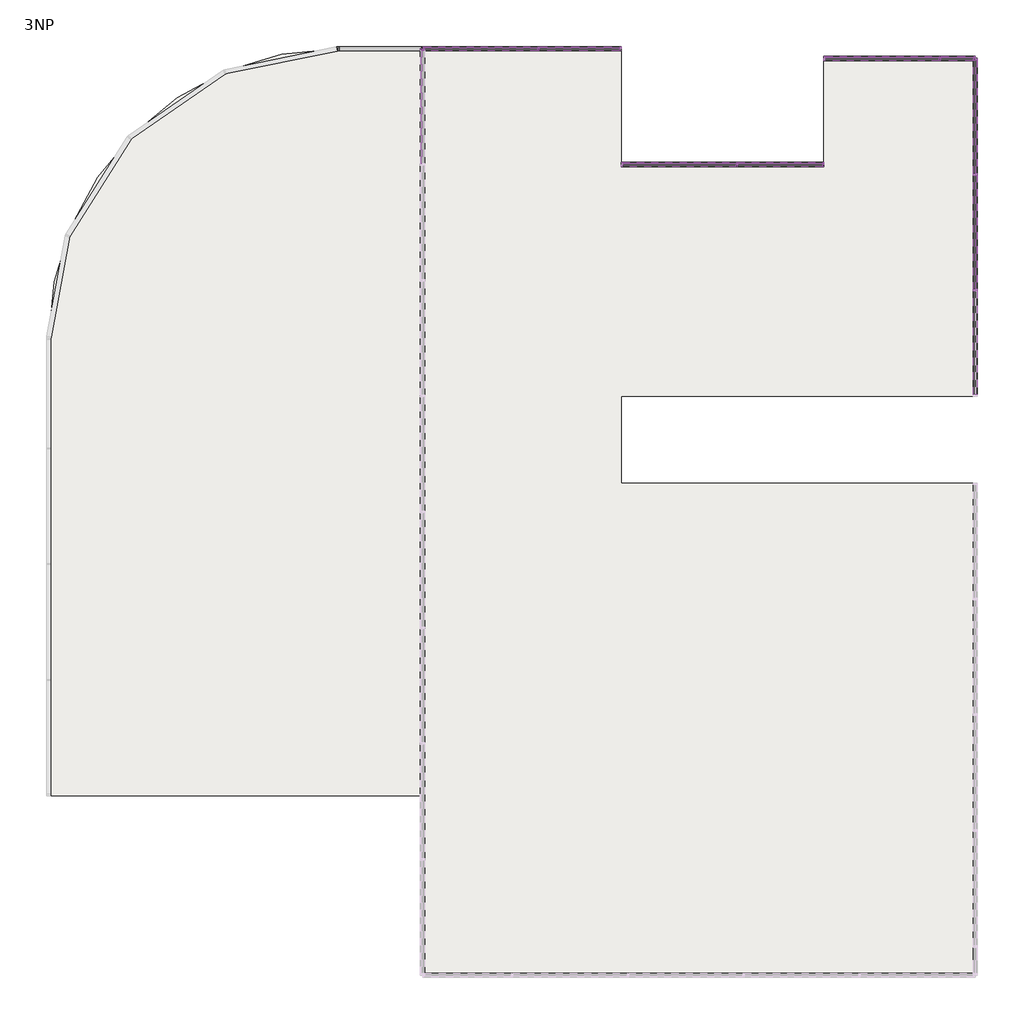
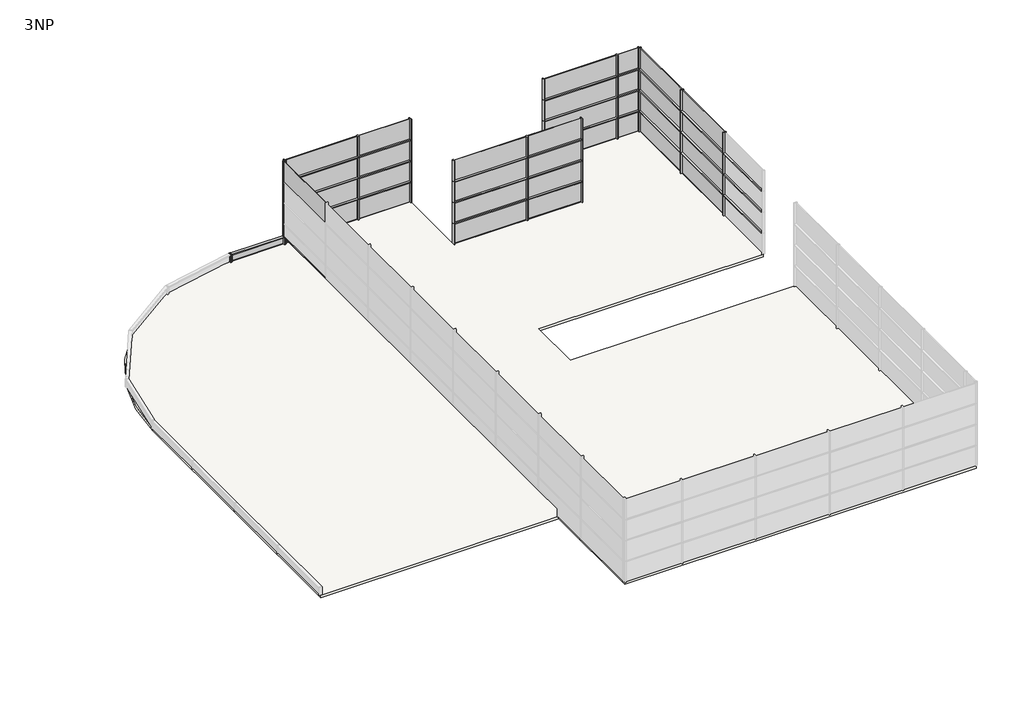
# One storey, part 3 of 3: 85 members, 34 plates, 1 slab.
"""IFC4 building model written with IfcOpenShell, lengths in millimetres."""

from ifc_helpers import new_model, si_unit, point, frame, frame_2d, origin, place, context, project, spatial, polyline, circle_curve, trimmed, segment, composite_curve, outline, extrude, transform, mapped, element, save
from components import rectangular_mullion_50_x_150mm_d99dc9be, rectangular_mullion_50_x_150mm_402ab136, rectangular_mullion_50_x_150mm_6588f46c, rectangular_mullion_50_x_150mm_3fe1b35e, rectangular_mullion_50_x_150mm_a037c29c, rectangular_mullion_50_x_150mm_c2546fd4, rectangular_mullion_50_x_150mm_70b588a3, rectangular_mullion_50_x_150mm_8b4cb4b7, rectangular_mullion_50_x_150mm_6c212b22, rectangular_mullion_50_x_150mm_185cfd49, rectangular_mullion_50_x_150mm_2fe63767, rectangular_mullion_50_x_150mm_0b116d56, system_panel_glazed_8e9402eb, system_panel_glazed_89ac83a7, system_panel_glazed_e890f31e, system_panel_glazed_bdf03046, system_panel_glazed_e3e91f99, system_panel_glazed_39d17f19, system_panel_glazed_f2c6a52c

model = new_model("IFC4")

# Units and contexts
model_context = context("Model", 3, world=origin())
ifc_project = project(units=[si_unit("LENGTHUNIT", "METRE", prefix="MILLI")], contexts=[model_context])

# Site, building, storey
site = spatial("IfcSite", under=ifc_project)
building = spatial("IfcBuilding", under=site)
storey = spatial("IfcBuildingStorey", under=building, Name="3NP", Elevation=12000.0)

# Members
placement = place(None, origin())
rectangular_mullion_50_x_150mm_shape = rectangular_mullion_50_x_150mm_d99dc9be(model_context)
element("IfcMember", 1, ObjectType="Rectangular Mullion : 50 x 150mm", at=placement, inside=storey, context=model_context, shape_type="MappedRepresentation", body=[
    mapped(rectangular_mullion_50_x_150mm_shape, transform((13503.2660975, 39.3555415, 16800.0), x_axis=(0.0, -1.0, 0.0), y_axis=(1.0, 0.0, 0.0), z_axis=(0.0, 0.0, 1.0))),
])
element("IfcMember", 2, ObjectType="Rectangular Mullion : 50 x 150mm", at=placement, inside=storey, context=model_context, shape_type="MappedRepresentation", body=[
    mapped(rectangular_mullion_50_x_150mm_shape, transform((13503.2660975, 39.3555415, 15600.0), x_axis=(0.0, -1.0, 0.0), y_axis=(1.0, 0.0, 0.0), z_axis=(0.0, 0.0, 1.0))),
])
element("IfcMember", 3, ObjectType="Rectangular Mullion : 50 x 150mm", at=placement, inside=storey, context=model_context, shape_type="MappedRepresentation", body=[
    mapped(rectangular_mullion_50_x_150mm_shape, transform((13503.2660975, 39.3555415, 14400.0), x_axis=(0.0, -1.0, 0.0), y_axis=(1.0, 0.0, 0.0), z_axis=(0.0, 0.0, 1.0))),
])
element("IfcMember", 4, ObjectType="Rectangular Mullion : 50 x 150mm", at=placement, inside=storey, context=model_context, shape_type="MappedRepresentation", body=[
    mapped(rectangular_mullion_50_x_150mm_shape, transform((13503.2660975, 39.3555415, 13200.0), x_axis=(0.0, -1.0, 0.0), y_axis=(1.0, 0.0, 0.0), z_axis=(0.0, 0.0, 1.0))),
])
element("IfcMember", 5, ObjectType="Rectangular Mullion : 50 x 150mm", at=placement, inside=storey, context=model_context, shape_type="MappedRepresentation", body=[
    mapped(rectangular_mullion_50_x_150mm_shape, transform((13503.2660975, 4039.3555415, 16800.0), x_axis=(0.0, -1.0, 0.0), y_axis=(1.0, 0.0, 0.0), z_axis=(0.0, 0.0, 1.0))),
])
element("IfcMember", 6, ObjectType="Rectangular Mullion : 50 x 150mm", at=placement, inside=storey, context=model_context, shape_type="MappedRepresentation", body=[
    mapped(rectangular_mullion_50_x_150mm_shape, transform((13503.2660975, 4039.3555415, 15600.0), x_axis=(0.0, -1.0, 0.0), y_axis=(1.0, 0.0, 0.0), z_axis=(0.0, 0.0, 1.0))),
])
element("IfcMember", 7, ObjectType="Rectangular Mullion : 50 x 150mm", at=placement, inside=storey, context=model_context, shape_type="MappedRepresentation", body=[
    mapped(rectangular_mullion_50_x_150mm_shape, transform((13503.2660975, 4039.3555415, 14400.0), x_axis=(0.0, -1.0, 0.0), y_axis=(1.0, 0.0, 0.0), z_axis=(0.0, 0.0, 1.0))),
])
element("IfcMember", 8, ObjectType="Rectangular Mullion : 50 x 150mm", at=placement, inside=storey, context=model_context, shape_type="MappedRepresentation", body=[
    mapped(rectangular_mullion_50_x_150mm_shape, transform((13503.2660975, 4039.3555415, 13200.0), x_axis=(0.0, -1.0, 0.0), y_axis=(1.0, 0.0, 0.0), z_axis=(0.0, 0.0, 1.0))),
])
element("IfcMember", 9, ObjectType="Rectangular Mullion : 50 x 150mm", at=placement, inside=storey, context=model_context, shape_type="MappedRepresentation", body=[
    mapped(rectangular_mullion_50_x_150mm_shape, transform((-1587.173406, 8375.9839566, 13200.0), x_axis=(1.0, 0.0, 0.0), y_axis=(0.0, 1.0, 0.0), z_axis=(0.0, 0.0, 1.0))),
])
element("IfcMember", 10, ObjectType="Rectangular Mullion : 50 x 150mm", at=placement, inside=storey, context=model_context, shape_type="MappedRepresentation", body=[
    mapped(rectangular_mullion_50_x_150mm_shape, transform((-1587.173406, 8375.9839566, 14400.0), x_axis=(1.0, 0.0, 0.0), y_axis=(0.0, 1.0, 0.0), z_axis=(0.0, 0.0, 1.0))),
])
element("IfcMember", 11, ObjectType="Rectangular Mullion : 50 x 150mm", at=placement, inside=storey, context=model_context, shape_type="MappedRepresentation", body=[
    mapped(rectangular_mullion_50_x_150mm_shape, transform((-1587.173406, 8375.9839566, 15600.0), x_axis=(1.0, 0.0, 0.0), y_axis=(0.0, 1.0, 0.0), z_axis=(0.0, 0.0, 1.0))),
])
element("IfcMember", 12, ObjectType="Rectangular Mullion : 50 x 150mm", at=placement, inside=storey, context=model_context, shape_type="MappedRepresentation", body=[
    mapped(rectangular_mullion_50_x_150mm_shape, transform((-1587.173406, 8375.9839566, 16800.0), x_axis=(1.0, 0.0, 0.0), y_axis=(0.0, 1.0, 0.0), z_axis=(0.0, 0.0, 1.0))),
])
element("IfcMember", 13, ObjectType="Rectangular Mullion : 50 x 150mm", at=placement, inside=storey, context=model_context, shape_type="MappedRepresentation", body=[
    mapped(rectangular_mullion_50_x_150mm_shape, transform((5278.419219, 4375.9839566, 16800.0), x_axis=(1.0, 0.0, 0.0), y_axis=(0.0, 1.0, 0.0), z_axis=(0.0, 0.0, 1.0))),
])
element("IfcMember", 14, ObjectType="Rectangular Mullion : 50 x 150mm", at=placement, inside=storey, context=model_context, shape_type="MappedRepresentation", body=[
    mapped(rectangular_mullion_50_x_150mm_shape, transform((5278.419219, 4375.9839566, 13200.0), x_axis=(1.0, 0.0, 0.0), y_axis=(0.0, 1.0, 0.0), z_axis=(0.0, 0.0, 1.0))),
])
element("IfcMember", 15, ObjectType="Rectangular Mullion : 50 x 150mm", at=placement, inside=storey, context=model_context, shape_type="MappedRepresentation", body=[
    mapped(rectangular_mullion_50_x_150mm_shape, transform((5278.419219, 4375.9839566, 14400.0), x_axis=(1.0, 0.0, 0.0), y_axis=(0.0, 1.0, 0.0), z_axis=(0.0, 0.0, 1.0))),
])
element("IfcMember", 16, ObjectType="Rectangular Mullion : 50 x 150mm", at=placement, inside=storey, context=model_context, shape_type="MappedRepresentation", body=[
    mapped(rectangular_mullion_50_x_150mm_shape, transform((5278.419219, 4375.9839566, 15600.0), x_axis=(1.0, 0.0, 0.0), y_axis=(0.0, 1.0, 0.0), z_axis=(0.0, 0.0, 1.0))),
])
element("IfcMember", 17, ObjectType="Rectangular Mullion : 50 x 150mm", at=placement, inside=storey, context=model_context, shape_type="MappedRepresentation", body=[
    mapped(rectangular_mullion_50_x_150mm_shape, transform((12278.419219, 8039.3555415, 13200.0), x_axis=(1.0, 0.0, 0.0), y_axis=(0.0, 1.0, 0.0), z_axis=(0.0, 0.0, 1.0))),
])
element("IfcMember", 18, ObjectType="Rectangular Mullion : 50 x 150mm", at=placement, inside=storey, context=model_context, shape_type="MappedRepresentation", body=[
    mapped(rectangular_mullion_50_x_150mm_shape, transform((12278.419219, 8039.3555415, 14400.0), x_axis=(1.0, 0.0, 0.0), y_axis=(0.0, 1.0, 0.0), z_axis=(0.0, 0.0, 1.0))),
])
element("IfcMember", 19, ObjectType="Rectangular Mullion : 50 x 150mm", at=placement, inside=storey, context=model_context, shape_type="MappedRepresentation", body=[
    mapped(rectangular_mullion_50_x_150mm_shape, transform((12278.419219, 8039.3555415, 15600.0), x_axis=(1.0, 0.0, 0.0), y_axis=(0.0, 1.0, 0.0), z_axis=(0.0, 0.0, 1.0))),
])
element("IfcMember", 20, ObjectType="Rectangular Mullion : 50 x 150mm", at=placement, inside=storey, context=model_context, shape_type="MappedRepresentation", body=[
    mapped(rectangular_mullion_50_x_150mm_shape, transform((12278.419219, 8039.3555415, 16800.0), x_axis=(1.0, 0.0, 0.0), y_axis=(0.0, 1.0, 0.0), z_axis=(0.0, 0.0, 1.0))),
])
rectangular_mullion_50_x_150mm_2_shape = rectangular_mullion_50_x_150mm_402ab136(model_context)
element("IfcMember", 21, ObjectType="Rectangular Mullion : 50 x 150mm", at=placement, inside=storey, context=model_context, shape_type="MappedRepresentation", body=[
    mapped(rectangular_mullion_50_x_150mm_2_shape, transform((-5587.173406, 8325.9839566, 12448.4924443), x_axis=(0.0, 0.0, -1.0), y_axis=(-1.0, 0.0, 0.0), z_axis=(0.0, 1.0, 0.0))),
])
rectangular_mullion_50_x_150mm_3_shape = rectangular_mullion_50_x_150mm_6588f46c(model_context)
element("IfcMember", 22, ObjectType="Rectangular Mullion : 50 x 150mm", at=placement, inside=storey, context=model_context, shape_type="MappedRepresentation", body=[
    mapped(rectangular_mullion_50_x_150mm_3_shape, transform((-5587.173406, 8375.9839566, 14400.0), x_axis=(0.0, 1.0, 0.0), y_axis=(-1.0, 0.0, 0.0), z_axis=(0.0, 0.0, 1.0))),
])
element("IfcMember", 23, ObjectType="Rectangular Mullion : 50 x 150mm", at=placement, inside=storey, context=model_context, shape_type="MappedRepresentation", body=[
    mapped(rectangular_mullion_50_x_150mm_3_shape, transform((-5587.173406, 8375.9839566, 15600.0), x_axis=(0.0, 1.0, 0.0), y_axis=(-1.0, 0.0, 0.0), z_axis=(0.0, 0.0, 1.0))),
])
element("IfcMember", 24, ObjectType="Rectangular Mullion : 50 x 150mm", at=placement, inside=storey, context=model_context, shape_type="MappedRepresentation", body=[
    mapped(rectangular_mullion_50_x_150mm_3_shape, transform((-5587.173406, 8375.9839566, 16800.0), x_axis=(0.0, 1.0, 0.0), y_axis=(-1.0, 0.0, 0.0), z_axis=(0.0, 0.0, 1.0))),
])
element("IfcMember", 25, ObjectType="Rectangular Mullion : 50 x 150mm", at=placement, inside=storey, context=model_context, shape_type="MappedRepresentation", body=[
    mapped(rectangular_mullion_50_x_150mm_3_shape, transform((1278.419219, 8375.9839566, 13200.0), x_axis=(1.0, 0.0, 0.0), y_axis=(0.0, 1.0, 0.0), z_axis=(0.0, 0.0, 1.0))),
])
element("IfcMember", 26, ObjectType="Rectangular Mullion : 50 x 150mm", at=placement, inside=storey, context=model_context, shape_type="MappedRepresentation", body=[
    mapped(rectangular_mullion_50_x_150mm_3_shape, transform((1278.419219, 8375.9839566, 14400.0), x_axis=(1.0, 0.0, 0.0), y_axis=(0.0, 1.0, 0.0), z_axis=(0.0, 0.0, 1.0))),
])
element("IfcMember", 27, ObjectType="Rectangular Mullion : 50 x 150mm", at=placement, inside=storey, context=model_context, shape_type="MappedRepresentation", body=[
    mapped(rectangular_mullion_50_x_150mm_3_shape, transform((1278.419219, 8375.9839566, 15600.0), x_axis=(1.0, 0.0, 0.0), y_axis=(0.0, 1.0, 0.0), z_axis=(0.0, 0.0, 1.0))),
])
element("IfcMember", 28, ObjectType="Rectangular Mullion : 50 x 150mm", at=placement, inside=storey, context=model_context, shape_type="MappedRepresentation", body=[
    mapped(rectangular_mullion_50_x_150mm_3_shape, transform((1278.419219, 8375.9839566, 16800.0), x_axis=(1.0, 0.0, 0.0), y_axis=(0.0, 1.0, 0.0), z_axis=(0.0, 0.0, 1.0))),
])
element("IfcMember", 29, ObjectType="Rectangular Mullion : 50 x 150mm", at=placement, inside=storey, context=model_context, shape_type="MappedRepresentation", body=[
    mapped(rectangular_mullion_50_x_150mm_3_shape, transform((8278.419219, 4375.9839566, 13200.0), x_axis=(1.0, 0.0, 0.0), y_axis=(0.0, 1.0, 0.0), z_axis=(0.0, 0.0, 1.0))),
])
element("IfcMember", 30, ObjectType="Rectangular Mullion : 50 x 150mm", at=placement, inside=storey, context=model_context, shape_type="MappedRepresentation", body=[
    mapped(rectangular_mullion_50_x_150mm_3_shape, transform((8278.419219, 4375.9839566, 14400.0), x_axis=(1.0, 0.0, 0.0), y_axis=(0.0, 1.0, 0.0), z_axis=(0.0, 0.0, 1.0))),
])
element("IfcMember", 31, ObjectType="Rectangular Mullion : 50 x 150mm", at=placement, inside=storey, context=model_context, shape_type="MappedRepresentation", body=[
    mapped(rectangular_mullion_50_x_150mm_3_shape, transform((8278.419219, 4375.9839566, 15600.0), x_axis=(1.0, 0.0, 0.0), y_axis=(0.0, 1.0, 0.0), z_axis=(0.0, 0.0, 1.0))),
])
element("IfcMember", 32, ObjectType="Rectangular Mullion : 50 x 150mm", at=placement, inside=storey, context=model_context, shape_type="MappedRepresentation", body=[
    mapped(rectangular_mullion_50_x_150mm_3_shape, transform((8278.419219, 4375.9839566, 16800.0), x_axis=(1.0, 0.0, 0.0), y_axis=(0.0, 1.0, 0.0), z_axis=(0.0, 0.0, 1.0))),
])
element("IfcMember", 33, ObjectType="Rectangular Mullion : 50 x 150mm", at=placement, inside=storey, context=model_context, shape_type="MappedRepresentation", body=[
    mapped(rectangular_mullion_50_x_150mm_3_shape, transform((13503.2660975, 8039.3555415, 13200.0), x_axis=(1.0, 0.0, 0.0), y_axis=(0.0, 1.0, 0.0), z_axis=(0.0, 0.0, 1.0))),
])
element("IfcMember", 34, ObjectType="Rectangular Mullion : 50 x 150mm", at=placement, inside=storey, context=model_context, shape_type="MappedRepresentation", body=[
    mapped(rectangular_mullion_50_x_150mm_3_shape, transform((13503.2660975, 8039.3555415, 14400.0), x_axis=(1.0, 0.0, 0.0), y_axis=(0.0, 1.0, 0.0), z_axis=(0.0, 0.0, 1.0))),
])
element("IfcMember", 35, ObjectType="Rectangular Mullion : 50 x 150mm", at=placement, inside=storey, context=model_context, shape_type="MappedRepresentation", body=[
    mapped(rectangular_mullion_50_x_150mm_3_shape, transform((13503.2660975, 8039.3555415, 15600.0), x_axis=(1.0, 0.0, 0.0), y_axis=(0.0, 1.0, 0.0), z_axis=(0.0, 0.0, 1.0))),
])
element("IfcMember", 36, ObjectType="Rectangular Mullion : 50 x 150mm", at=placement, inside=storey, context=model_context, shape_type="MappedRepresentation", body=[
    mapped(rectangular_mullion_50_x_150mm_3_shape, transform((13503.2660975, 8039.3555415, 16800.0), x_axis=(1.0, 0.0, 0.0), y_axis=(0.0, 1.0, 0.0), z_axis=(0.0, 0.0, 1.0))),
])
rectangular_mullion_50_x_150mm_4_shape = rectangular_mullion_50_x_150mm_3fe1b35e(model_context)
element("IfcMember", 37, ObjectType="Rectangular Mullion : 50 x 150mm", at=placement, inside=storey, context=model_context, shape_type="MappedRepresentation", body=[
    mapped(rectangular_mullion_50_x_150mm_4_shape, transform((13503.2660975, 14.3555415, 15600.0), x_axis=(0.0, 0.0, 1.0), y_axis=(1.0, 0.0, 0.0), z_axis=(0.0, 1.0, 0.0))),
])
element("IfcMember", 38, ObjectType="Rectangular Mullion : 50 x 150mm", at=placement, inside=storey, context=model_context, shape_type="MappedRepresentation", body=[
    mapped(rectangular_mullion_50_x_150mm_4_shape, transform((13503.2660975, 14.3555415, 14400.0), x_axis=(0.0, 0.0, 1.0), y_axis=(1.0, 0.0, 0.0), z_axis=(0.0, 1.0, 0.0))),
])
element("IfcMember", 39, ObjectType="Rectangular Mullion : 50 x 150mm", at=placement, inside=storey, context=model_context, shape_type="MappedRepresentation", body=[
    mapped(rectangular_mullion_50_x_150mm_4_shape, transform((13503.2660975, 14.3555415, 13200.0), x_axis=(0.0, 0.0, 1.0), y_axis=(1.0, 0.0, 0.0), z_axis=(0.0, 1.0, 0.0))),
])
rectangular_mullion_50_x_150mm_5_shape = rectangular_mullion_50_x_150mm_a037c29c(model_context)
element("IfcMember", 40, ObjectType="Rectangular Mullion : 50 x 150mm", at=placement, inside=storey, context=model_context, shape_type="MappedRepresentation", body=[
    mapped(rectangular_mullion_50_x_150mm_5_shape, transform((13503.2660975, 4014.3555415, 15600.0), x_axis=(0.0, 0.0, 1.0), y_axis=(1.0, 0.0, 0.0), z_axis=(0.0, 1.0, 0.0))),
])
element("IfcMember", 41, ObjectType="Rectangular Mullion : 50 x 150mm", at=placement, inside=storey, context=model_context, shape_type="MappedRepresentation", body=[
    mapped(rectangular_mullion_50_x_150mm_5_shape, transform((13503.2660975, 4014.3555415, 14400.0), x_axis=(0.0, 0.0, 1.0), y_axis=(1.0, 0.0, 0.0), z_axis=(0.0, 1.0, 0.0))),
])
element("IfcMember", 42, ObjectType="Rectangular Mullion : 50 x 150mm", at=placement, inside=storey, context=model_context, shape_type="MappedRepresentation", body=[
    mapped(rectangular_mullion_50_x_150mm_5_shape, transform((13503.2660975, 4014.3555415, 13200.0), x_axis=(0.0, 0.0, 1.0), y_axis=(1.0, 0.0, 0.0), z_axis=(0.0, 1.0, 0.0))),
])
rectangular_mullion_50_x_150mm_6_shape = rectangular_mullion_50_x_150mm_c2546fd4(model_context)
element("IfcMember", 43, ObjectType="Rectangular Mullion : 50 x 150mm", at=placement, inside=storey, context=model_context, shape_type="MappedRepresentation", body=[
    mapped(rectangular_mullion_50_x_150mm_6_shape, transform((13503.2660975, 7989.3555415, 15600.0), x_axis=(0.0, 0.0, 1.0), y_axis=(1.0, 0.0, 0.0), z_axis=(0.0, 1.0, 0.0))),
])
element("IfcMember", 44, ObjectType="Rectangular Mullion : 50 x 150mm", at=placement, inside=storey, context=model_context, shape_type="MappedRepresentation", body=[
    mapped(rectangular_mullion_50_x_150mm_6_shape, transform((13503.2660975, 7989.3555415, 14400.0), x_axis=(0.0, 0.0, 1.0), y_axis=(1.0, 0.0, 0.0), z_axis=(0.0, 1.0, 0.0))),
])
element("IfcMember", 45, ObjectType="Rectangular Mullion : 50 x 150mm", at=placement, inside=storey, context=model_context, shape_type="MappedRepresentation", body=[
    mapped(rectangular_mullion_50_x_150mm_6_shape, transform((13503.2660975, 7989.3555415, 13200.0), x_axis=(0.0, 0.0, 1.0), y_axis=(1.0, 0.0, 0.0), z_axis=(0.0, 1.0, 0.0))),
])
element("IfcMember", 46, ObjectType="Rectangular Mullion : 50 x 150mm", at=placement, inside=storey, context=model_context, shape_type="MappedRepresentation", body=[
    mapped(rectangular_mullion_50_x_150mm_6_shape, transform((-5537.173406, 8375.9839566, 13200.0), x_axis=(0.0, 0.0, 1.0), y_axis=(0.0, 1.0, 0.0), z_axis=(-1.0, 0.0, 0.0))),
])
element("IfcMember", 47, ObjectType="Rectangular Mullion : 50 x 150mm", at=placement, inside=storey, context=model_context, shape_type="MappedRepresentation", body=[
    mapped(rectangular_mullion_50_x_150mm_6_shape, transform((-5537.173406, 8375.9839566, 14400.0), x_axis=(0.0, 0.0, 1.0), y_axis=(0.0, 1.0, 0.0), z_axis=(-1.0, 0.0, 0.0))),
])
element("IfcMember", 48, ObjectType="Rectangular Mullion : 50 x 150mm", at=placement, inside=storey, context=model_context, shape_type="MappedRepresentation", body=[
    mapped(rectangular_mullion_50_x_150mm_6_shape, transform((-5537.173406, 8375.9839566, 15600.0), x_axis=(0.0, 0.0, 1.0), y_axis=(0.0, 1.0, 0.0), z_axis=(-1.0, 0.0, 0.0))),
])
element("IfcMember", 49, ObjectType="Rectangular Mullion : 50 x 150mm", at=placement, inside=storey, context=model_context, shape_type="MappedRepresentation", body=[
    mapped(rectangular_mullion_50_x_150mm_6_shape, transform((1328.419219, 4375.9839566, 13200.0), x_axis=(0.0, 0.0, 1.0), y_axis=(0.0, 1.0, 0.0), z_axis=(-1.0, 0.0, 0.0))),
])
element("IfcMember", 50, ObjectType="Rectangular Mullion : 50 x 150mm", at=placement, inside=storey, context=model_context, shape_type="MappedRepresentation", body=[
    mapped(rectangular_mullion_50_x_150mm_6_shape, transform((1328.419219, 4375.9839566, 14400.0), x_axis=(0.0, 0.0, 1.0), y_axis=(0.0, 1.0, 0.0), z_axis=(-1.0, 0.0, 0.0))),
])
element("IfcMember", 51, ObjectType="Rectangular Mullion : 50 x 150mm", at=placement, inside=storey, context=model_context, shape_type="MappedRepresentation", body=[
    mapped(rectangular_mullion_50_x_150mm_6_shape, transform((1328.419219, 4375.9839566, 15600.0), x_axis=(0.0, 0.0, 1.0), y_axis=(0.0, 1.0, 0.0), z_axis=(-1.0, 0.0, 0.0))),
])
element("IfcMember", 52, ObjectType="Rectangular Mullion : 50 x 150mm", at=placement, inside=storey, context=model_context, shape_type="MappedRepresentation", body=[
    mapped(rectangular_mullion_50_x_150mm_6_shape, transform((8328.419219, 8039.3555415, 13200.0), x_axis=(0.0, 0.0, 1.0), y_axis=(0.0, 1.0, 0.0), z_axis=(-1.0, 0.0, 0.0))),
])
element("IfcMember", 53, ObjectType="Rectangular Mullion : 50 x 150mm", at=placement, inside=storey, context=model_context, shape_type="MappedRepresentation", body=[
    mapped(rectangular_mullion_50_x_150mm_6_shape, transform((8328.419219, 8039.3555415, 14400.0), x_axis=(0.0, 0.0, 1.0), y_axis=(0.0, 1.0, 0.0), z_axis=(-1.0, 0.0, 0.0))),
])
element("IfcMember", 54, ObjectType="Rectangular Mullion : 50 x 150mm", at=placement, inside=storey, context=model_context, shape_type="MappedRepresentation", body=[
    mapped(rectangular_mullion_50_x_150mm_6_shape, transform((8328.419219, 8039.3555415, 15600.0), x_axis=(0.0, 0.0, 1.0), y_axis=(0.0, 1.0, 0.0), z_axis=(-1.0, 0.0, 0.0))),
])
element("IfcMember", 55, ObjectType="Rectangular Mullion : 50 x 150mm", at=placement, inside=storey, context=model_context, shape_type="MappedRepresentation", body=[
    mapped(rectangular_mullion_50_x_150mm_3_shape, transform((13503.2660975, 8039.3555415, 15600.0), x_axis=(0.0, 1.0, 0.0), y_axis=(1.0, 0.0, 0.0), z_axis=(0.0, 0.0, -1.0))),
])
element("IfcMember", 56, ObjectType="Rectangular Mullion : 50 x 150mm", at=placement, inside=storey, context=model_context, shape_type="MappedRepresentation", body=[
    mapped(rectangular_mullion_50_x_150mm_3_shape, transform((13503.2660975, 8039.3555415, 14400.0), x_axis=(0.0, 1.0, 0.0), y_axis=(1.0, 0.0, 0.0), z_axis=(0.0, 0.0, -1.0))),
])
element("IfcMember", 57, ObjectType="Rectangular Mullion : 50 x 150mm", at=placement, inside=storey, context=model_context, shape_type="MappedRepresentation", body=[
    mapped(rectangular_mullion_50_x_150mm_3_shape, transform((13503.2660975, 8039.3555415, 13200.0), x_axis=(0.0, 1.0, 0.0), y_axis=(1.0, 0.0, 0.0), z_axis=(0.0, 0.0, -1.0))),
])
element("IfcMember", 58, ObjectType="Rectangular Mullion : 50 x 150mm", at=placement, inside=storey, context=model_context, shape_type="MappedRepresentation", body=[
    mapped(rectangular_mullion_50_x_150mm_3_shape, transform((13503.2660975, 8039.3555415, 12000.0), x_axis=(0.0, 1.0, 0.0), y_axis=(1.0, 0.0, 0.0), z_axis=(0.0, 0.0, -1.0))),
])
element("IfcMember", 59, ObjectType="Rectangular Mullion : 50 x 150mm", at=placement, inside=storey, context=model_context, shape_type="MappedRepresentation", body=[
    mapped(rectangular_mullion_50_x_150mm_3_shape, transform((-5587.173406, 8375.9839566, 13200.0), x_axis=(-1.0, 0.0, 0.0), y_axis=(0.0, 1.0, 0.0), z_axis=(0.0, 0.0, -1.0))),
])
element("IfcMember", 60, ObjectType="Rectangular Mullion : 50 x 150mm", at=placement, inside=storey, context=model_context, shape_type="MappedRepresentation", body=[
    mapped(rectangular_mullion_50_x_150mm_3_shape, transform((-5587.173406, 8375.9839566, 14400.0), x_axis=(-1.0, 0.0, 0.0), y_axis=(0.0, 1.0, 0.0), z_axis=(0.0, 0.0, -1.0))),
])
element("IfcMember", 61, ObjectType="Rectangular Mullion : 50 x 150mm", at=placement, inside=storey, context=model_context, shape_type="MappedRepresentation", body=[
    mapped(rectangular_mullion_50_x_150mm_3_shape, transform((-5587.173406, 8375.9839566, 15600.0), x_axis=(-1.0, 0.0, 0.0), y_axis=(0.0, 1.0, 0.0), z_axis=(0.0, 0.0, -1.0))),
])
element("IfcMember", 62, ObjectType="Rectangular Mullion : 50 x 150mm", at=placement, inside=storey, context=model_context, shape_type="MappedRepresentation", body=[
    mapped(rectangular_mullion_50_x_150mm_3_shape, transform((1278.419219, 4375.9839566, 12000.0), x_axis=(-1.0, 0.0, 0.0), y_axis=(0.0, 1.0, 0.0), z_axis=(0.0, 0.0, -1.0))),
])
element("IfcMember", 63, ObjectType="Rectangular Mullion : 50 x 150mm", at=placement, inside=storey, context=model_context, shape_type="MappedRepresentation", body=[
    mapped(rectangular_mullion_50_x_150mm_3_shape, transform((1278.419219, 4375.9839566, 13200.0), x_axis=(-1.0, 0.0, 0.0), y_axis=(0.0, 1.0, 0.0), z_axis=(0.0, 0.0, -1.0))),
])
element("IfcMember", 64, ObjectType="Rectangular Mullion : 50 x 150mm", at=placement, inside=storey, context=model_context, shape_type="MappedRepresentation", body=[
    mapped(rectangular_mullion_50_x_150mm_3_shape, transform((1278.419219, 4375.9839566, 14400.0), x_axis=(-1.0, 0.0, 0.0), y_axis=(0.0, 1.0, 0.0), z_axis=(0.0, 0.0, -1.0))),
])
element("IfcMember", 65, ObjectType="Rectangular Mullion : 50 x 150mm", at=placement, inside=storey, context=model_context, shape_type="MappedRepresentation", body=[
    mapped(rectangular_mullion_50_x_150mm_3_shape, transform((1278.419219, 4375.9839566, 15600.0), x_axis=(-1.0, 0.0, 0.0), y_axis=(0.0, 1.0, 0.0), z_axis=(0.0, 0.0, -1.0))),
])
element("IfcMember", 66, ObjectType="Rectangular Mullion : 50 x 150mm", at=placement, inside=storey, context=model_context, shape_type="MappedRepresentation", body=[
    mapped(rectangular_mullion_50_x_150mm_3_shape, transform((8278.419219, 8039.3555415, 12000.0), x_axis=(-1.0, 0.0, 0.0), y_axis=(0.0, 1.0, 0.0), z_axis=(0.0, 0.0, -1.0))),
])
element("IfcMember", 67, ObjectType="Rectangular Mullion : 50 x 150mm", at=placement, inside=storey, context=model_context, shape_type="MappedRepresentation", body=[
    mapped(rectangular_mullion_50_x_150mm_3_shape, transform((8278.419219, 8039.3555415, 13200.0), x_axis=(-1.0, 0.0, 0.0), y_axis=(0.0, 1.0, 0.0), z_axis=(0.0, 0.0, -1.0))),
])
element("IfcMember", 68, ObjectType="Rectangular Mullion : 50 x 150mm", at=placement, inside=storey, context=model_context, shape_type="MappedRepresentation", body=[
    mapped(rectangular_mullion_50_x_150mm_3_shape, transform((8278.419219, 8039.3555415, 14400.0), x_axis=(-1.0, 0.0, 0.0), y_axis=(0.0, 1.0, 0.0), z_axis=(0.0, 0.0, -1.0))),
])
element("IfcMember", 69, ObjectType="Rectangular Mullion : 50 x 150mm", at=placement, inside=storey, context=model_context, shape_type="MappedRepresentation", body=[
    mapped(rectangular_mullion_50_x_150mm_3_shape, transform((8278.419219, 8039.3555415, 15600.0), x_axis=(-1.0, 0.0, 0.0), y_axis=(0.0, 1.0, 0.0), z_axis=(0.0, 0.0, -1.0))),
])
rectangular_mullion_50_x_150mm_7_shape = rectangular_mullion_50_x_150mm_70b588a3(model_context)
element("IfcMember", 70, ObjectType="Rectangular Mullion : 50 x 150mm", at=placement, inside=storey, context=model_context, shape_type="MappedRepresentation", body=[
    mapped(rectangular_mullion_50_x_150mm_7_shape, transform((-5587.173406, 8375.9839566, 13200.0), x_axis=(0.0, 1.0, 0.0), y_axis=(-1.0, 0.0, 0.0), z_axis=(0.0, 0.0, 1.0))),
])
rectangular_mullion_50_x_150mm_8_shape = rectangular_mullion_50_x_150mm_8b4cb4b7(model_context)
element("IfcMember", 71, ObjectType="Rectangular Mullion : 50 x 150mm", at=placement, inside=storey, context=model_context, shape_type="MappedRepresentation", body=[
    mapped(rectangular_mullion_50_x_150mm_8_shape, transform((-1562.173406, 8375.9839566, 13200.0), x_axis=(0.0, 0.0, 1.0), y_axis=(0.0, 1.0, 0.0), z_axis=(-1.0, 0.0, 0.0))),
])
element("IfcMember", 72, ObjectType="Rectangular Mullion : 50 x 150mm", at=placement, inside=storey, context=model_context, shape_type="MappedRepresentation", body=[
    mapped(rectangular_mullion_50_x_150mm_8_shape, transform((-1562.173406, 8375.9839566, 14400.0), x_axis=(0.0, 0.0, 1.0), y_axis=(0.0, 1.0, 0.0), z_axis=(-1.0, 0.0, 0.0))),
])
element("IfcMember", 73, ObjectType="Rectangular Mullion : 50 x 150mm", at=placement, inside=storey, context=model_context, shape_type="MappedRepresentation", body=[
    mapped(rectangular_mullion_50_x_150mm_8_shape, transform((-1562.173406, 8375.9839566, 15600.0), x_axis=(0.0, 0.0, 1.0), y_axis=(0.0, 1.0, 0.0), z_axis=(-1.0, 0.0, 0.0))),
])
rectangular_mullion_50_x_150mm_9_shape = rectangular_mullion_50_x_150mm_6c212b22(model_context)
element("IfcMember", 74, ObjectType="Rectangular Mullion : 50 x 150mm", at=placement, inside=storey, context=model_context, shape_type="MappedRepresentation", body=[
    mapped(rectangular_mullion_50_x_150mm_9_shape, transform((-5587.173406, 8375.9839566, 12000.0), x_axis=(-1.0, 0.0, 0.0), y_axis=(0.0, 1.0, 0.0), z_axis=(0.0, 0.0, -1.0))),
])
element("IfcMember", 75, ObjectType="Rectangular Mullion : 50 x 150mm", at=placement, inside=storey, context=model_context, shape_type="MappedRepresentation", body=[
    mapped(rectangular_mullion_50_x_150mm_7_shape, transform((-5587.173406, 8375.9839566, 12448.4924443), x_axis=(-1.0, 0.0, 0.0), y_axis=(0.0, 1.0, 0.0), z_axis=(0.0, 0.0, -1.0))),
])
rectangular_mullion_50_x_150mm_10_shape = rectangular_mullion_50_x_150mm_185cfd49(model_context)
element("IfcMember", 76, ObjectType="Rectangular Mullion : 50 x 150mm", at=placement, inside=storey, context=model_context, shape_type="MappedRepresentation", body=[
    mapped(rectangular_mullion_50_x_150mm_10_shape, transform((5303.419219, 4375.9839566, 13200.0), x_axis=(0.0, 0.0, 1.0), y_axis=(0.0, 1.0, 0.0), z_axis=(-1.0, 0.0, 0.0))),
])
element("IfcMember", 77, ObjectType="Rectangular Mullion : 50 x 150mm", at=placement, inside=storey, context=model_context, shape_type="MappedRepresentation", body=[
    mapped(rectangular_mullion_50_x_150mm_10_shape, transform((5303.419219, 4375.9839566, 14400.0), x_axis=(0.0, 0.0, 1.0), y_axis=(0.0, 1.0, 0.0), z_axis=(-1.0, 0.0, 0.0))),
])
element("IfcMember", 78, ObjectType="Rectangular Mullion : 50 x 150mm", at=placement, inside=storey, context=model_context, shape_type="MappedRepresentation", body=[
    mapped(rectangular_mullion_50_x_150mm_10_shape, transform((5303.419219, 4375.9839566, 15600.0), x_axis=(0.0, 0.0, 1.0), y_axis=(0.0, 1.0, 0.0), z_axis=(-1.0, 0.0, 0.0))),
])
rectangular_mullion_50_x_150mm_11_shape = rectangular_mullion_50_x_150mm_2fe63767(model_context)
element("IfcMember", 79, ObjectType="Rectangular Mullion : 50 x 150mm", at=placement, inside=storey, context=model_context, shape_type="MappedRepresentation", body=[
    mapped(rectangular_mullion_50_x_150mm_11_shape, transform((12303.419219, 8039.3555415, 13200.0), x_axis=(0.0, 0.0, 1.0), y_axis=(0.0, 1.0, 0.0), z_axis=(-1.0, 0.0, 0.0))),
])
element("IfcMember", 80, ObjectType="Rectangular Mullion : 50 x 150mm", at=placement, inside=storey, context=model_context, shape_type="MappedRepresentation", body=[
    mapped(rectangular_mullion_50_x_150mm_11_shape, transform((12303.419219, 8039.3555415, 14400.0), x_axis=(0.0, 0.0, 1.0), y_axis=(0.0, 1.0, 0.0), z_axis=(-1.0, 0.0, 0.0))),
])
element("IfcMember", 81, ObjectType="Rectangular Mullion : 50 x 150mm", at=placement, inside=storey, context=model_context, shape_type="MappedRepresentation", body=[
    mapped(rectangular_mullion_50_x_150mm_11_shape, transform((12303.419219, 8039.3555415, 15600.0), x_axis=(0.0, 0.0, 1.0), y_axis=(0.0, 1.0, 0.0), z_axis=(-1.0, 0.0, 0.0))),
])
rectangular_mullion_50_x_150mm_12_shape = rectangular_mullion_50_x_150mm_0b116d56(model_context)
element("IfcMember", 82, ObjectType="Rectangular Mullion : 50 x 150mm", at=placement, inside=storey, context=model_context, shape_type="MappedRepresentation", body=[
    mapped(rectangular_mullion_50_x_150mm_12_shape, transform((-8446.7339025, 8375.9839566, 12448.4924443), x_axis=(0.0, 0.0, 1.0), y_axis=(0.0, 1.0, 0.0), z_axis=(-1.0, 0.0, 0.0))),
])
element("IfcMember", 83, ObjectType="Rectangular Mullion : 50 x 150mm", at=placement, inside=storey, context=model_context, shape_type="MappedRepresentation", body=[
    mapped(rectangular_mullion_50_x_150mm_9_shape, transform((-5587.173406, 8375.9839566, 12448.4924443), x_axis=(1.0, 0.0, 0.0), y_axis=(0.0, 1.0, 0.0), z_axis=(0.0, 0.0, 1.0))),
])
element("IfcMember", 84, ObjectType="Rectangular Mullion : 50 x 150mm", at=placement, inside=storey, context=model_context, shape_type="MappedRepresentation", body=[
    mapped(rectangular_mullion_50_x_150mm_9_shape, transform((-8496.7339025, 8375.9839566, 12448.4924443), x_axis=(0.9797958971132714, 0.19999999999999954, 0.0), y_axis=(-0.19999999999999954, 0.9797958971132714, 0.0), z_axis=(0.0, 0.0, 1.0))),
])
element("IfcMember", 85, ObjectType="Rectangular Mullion : 50 x 150mm", at=placement, inside=storey, context=model_context, shape_type="MappedRepresentation", body=[
    mapped(rectangular_mullion_50_x_150mm_9_shape, transform((-8496.7339025, 8375.9839566, 12000.0), x_axis=(-1.0, 0.0, 0.0), y_axis=(0.0, 1.0, 0.0), z_axis=(0.0, 0.0, -1.0))),
])

# Plates
system_panel_glazed_shape = system_panel_glazed_8e9402eb(model_context)
element("IfcPlate", 86, ObjectType="System Panel : Glazed", at=placement, inside=storey, context=model_context, shape_type="MappedRepresentation", body=[
    mapped(system_panel_glazed_shape, transform((-5587.173406, 6363.4839566, 15625.0), x_axis=(0.0, 1.0, 0.0), y_axis=(-1.0, 0.0, 0.0), z_axis=(0.0, 0.0, 1.0))),
])
element("IfcPlate", 87, ObjectType="System Panel : Glazed", at=placement, inside=storey, context=model_context, shape_type="MappedRepresentation", body=[
    mapped(system_panel_glazed_shape, transform((13503.2660975, 6026.8555415, 12025.0), x_axis=(0.0, -1.0, 0.0), y_axis=(1.0, 0.0, 0.0), z_axis=(0.0, 0.0, 1.0))),
])
element("IfcPlate", 88, ObjectType="System Panel : Glazed", at=placement, inside=storey, context=model_context, shape_type="MappedRepresentation", body=[
    mapped(system_panel_glazed_shape, transform((13503.2660975, 6026.8555415, 13225.0), x_axis=(0.0, -1.0, 0.0), y_axis=(1.0, 0.0, 0.0), z_axis=(0.0, 0.0, 1.0))),
])
element("IfcPlate", 89, ObjectType="System Panel : Glazed", at=placement, inside=storey, context=model_context, shape_type="MappedRepresentation", body=[
    mapped(system_panel_glazed_shape, transform((13503.2660975, 6026.8555415, 14425.0), x_axis=(0.0, -1.0, 0.0), y_axis=(1.0, 0.0, 0.0), z_axis=(0.0, 0.0, 1.0))),
])
element("IfcPlate", 90, ObjectType="System Panel : Glazed", at=placement, inside=storey, context=model_context, shape_type="MappedRepresentation", body=[
    mapped(system_panel_glazed_shape, transform((13503.2660975, 6026.8555415, 15625.0), x_axis=(0.0, -1.0, 0.0), y_axis=(1.0, 0.0, 0.0), z_axis=(0.0, 0.0, 1.0))),
])
element("IfcPlate", 91, ObjectType="System Panel : Glazed", at=placement, inside=storey, context=model_context, shape_type="MappedRepresentation", body=[
    mapped(system_panel_glazed_shape, transform((10290.919219, 8039.3555415, 12025.0), x_axis=(1.0, 0.0, 0.0), y_axis=(0.0, 1.0, 0.0), z_axis=(0.0, 0.0, 1.0))),
])
element("IfcPlate", 92, ObjectType="System Panel : Glazed", at=placement, inside=storey, context=model_context, shape_type="MappedRepresentation", body=[
    mapped(system_panel_glazed_shape, transform((10290.919219, 8039.3555415, 13225.0), x_axis=(1.0, 0.0, 0.0), y_axis=(0.0, 1.0, 0.0), z_axis=(0.0, 0.0, 1.0))),
])
element("IfcPlate", 93, ObjectType="System Panel : Glazed", at=placement, inside=storey, context=model_context, shape_type="MappedRepresentation", body=[
    mapped(system_panel_glazed_shape, transform((10290.919219, 8039.3555415, 14425.0), x_axis=(1.0, 0.0, 0.0), y_axis=(0.0, 1.0, 0.0), z_axis=(0.0, 0.0, 1.0))),
])
element("IfcPlate", 94, ObjectType="System Panel : Glazed", at=placement, inside=storey, context=model_context, shape_type="MappedRepresentation", body=[
    mapped(system_panel_glazed_shape, transform((10290.919219, 8039.3555415, 15625.0), x_axis=(1.0, 0.0, 0.0), y_axis=(0.0, 1.0, 0.0), z_axis=(0.0, 0.0, 1.0))),
])
element("IfcPlate", 95, ObjectType="System Panel : Glazed", at=placement, inside=storey, context=model_context, shape_type="MappedRepresentation", body=[
    mapped(system_panel_glazed_shape, transform((3290.919219, 4375.9839566, 12025.0), x_axis=(1.0, 0.0, 0.0), y_axis=(0.0, 1.0, 0.0), z_axis=(0.0, 0.0, 1.0))),
])
element("IfcPlate", 96, ObjectType="System Panel : Glazed", at=placement, inside=storey, context=model_context, shape_type="MappedRepresentation", body=[
    mapped(system_panel_glazed_shape, transform((3290.919219, 4375.9839566, 13225.0), x_axis=(1.0, 0.0, 0.0), y_axis=(0.0, 1.0, 0.0), z_axis=(0.0, 0.0, 1.0))),
])
element("IfcPlate", 97, ObjectType="System Panel : Glazed", at=placement, inside=storey, context=model_context, shape_type="MappedRepresentation", body=[
    mapped(system_panel_glazed_shape, transform((3290.919219, 4375.9839566, 14425.0), x_axis=(1.0, 0.0, 0.0), y_axis=(0.0, 1.0, 0.0), z_axis=(0.0, 0.0, 1.0))),
])
element("IfcPlate", 98, ObjectType="System Panel : Glazed", at=placement, inside=storey, context=model_context, shape_type="MappedRepresentation", body=[
    mapped(system_panel_glazed_shape, transform((3290.919219, 4375.9839566, 15625.0), x_axis=(1.0, 0.0, 0.0), y_axis=(0.0, 1.0, 0.0), z_axis=(0.0, 0.0, 1.0))),
])
element("IfcPlate", 99, ObjectType="System Panel : Glazed", at=placement, inside=storey, context=model_context, shape_type="MappedRepresentation", body=[
    mapped(system_panel_glazed_shape, transform((-3574.673406, 8375.9839566, 13225.0), x_axis=(1.0, 0.0, 0.0), y_axis=(0.0, 1.0, 0.0), z_axis=(0.0, 0.0, 1.0))),
])
element("IfcPlate", 100, ObjectType="System Panel : Glazed", at=placement, inside=storey, context=model_context, shape_type="MappedRepresentation", body=[
    mapped(system_panel_glazed_shape, transform((-3574.673406, 8375.9839566, 14425.0), x_axis=(1.0, 0.0, 0.0), y_axis=(0.0, 1.0, 0.0), z_axis=(0.0, 0.0, 1.0))),
])
element("IfcPlate", 101, ObjectType="System Panel : Glazed", at=placement, inside=storey, context=model_context, shape_type="MappedRepresentation", body=[
    mapped(system_panel_glazed_shape, transform((-3574.673406, 8375.9839566, 15625.0), x_axis=(1.0, 0.0, 0.0), y_axis=(0.0, 1.0, 0.0), z_axis=(0.0, 0.0, 1.0))),
])
system_panel_glazed_2_shape = system_panel_glazed_89ac83a7(model_context)
element("IfcPlate", 102, ObjectType="System Panel : Glazed", at=placement, inside=storey, context=model_context, shape_type="MappedRepresentation", body=[
    mapped(system_panel_glazed_2_shape, transform((13503.2660975, 2039.3555415, 12025.0), x_axis=(0.0, -1.0, 0.0), y_axis=(1.0, 0.0, 0.0), z_axis=(0.0, 0.0, 1.0))),
])
element("IfcPlate", 103, ObjectType="System Panel : Glazed", at=placement, inside=storey, context=model_context, shape_type="MappedRepresentation", body=[
    mapped(system_panel_glazed_2_shape, transform((13503.2660975, 2039.3555415, 13225.0), x_axis=(0.0, -1.0, 0.0), y_axis=(1.0, 0.0, 0.0), z_axis=(0.0, 0.0, 1.0))),
])
element("IfcPlate", 104, ObjectType="System Panel : Glazed", at=placement, inside=storey, context=model_context, shape_type="MappedRepresentation", body=[
    mapped(system_panel_glazed_2_shape, transform((13503.2660975, 2039.3555415, 14425.0), x_axis=(0.0, -1.0, 0.0), y_axis=(1.0, 0.0, 0.0), z_axis=(0.0, 0.0, 1.0))),
])
element("IfcPlate", 105, ObjectType="System Panel : Glazed", at=placement, inside=storey, context=model_context, shape_type="MappedRepresentation", body=[
    mapped(system_panel_glazed_2_shape, transform((13503.2660975, 2039.3555415, 15625.0), x_axis=(0.0, -1.0, 0.0), y_axis=(1.0, 0.0, 0.0), z_axis=(0.0, 0.0, 1.0))),
])
system_panel_glazed_3_shape = system_panel_glazed_e890f31e(model_context)
element("IfcPlate", 106, ObjectType="System Panel : Glazed", at=placement, inside=storey, context=model_context, shape_type="MappedRepresentation", body=[
    mapped(system_panel_glazed_3_shape, transform((-166.8770935, 8375.9839566, 12025.0), x_axis=(1.0, 0.0, 0.0), y_axis=(0.0, 1.0, 0.0), z_axis=(0.0, 0.0, 1.0))),
])
element("IfcPlate", 107, ObjectType="System Panel : Glazed", at=placement, inside=storey, context=model_context, shape_type="MappedRepresentation", body=[
    mapped(system_panel_glazed_3_shape, transform((-166.8770935, 8375.9839566, 13225.0), x_axis=(1.0, 0.0, 0.0), y_axis=(0.0, 1.0, 0.0), z_axis=(0.0, 0.0, 1.0))),
])
element("IfcPlate", 108, ObjectType="System Panel : Glazed", at=placement, inside=storey, context=model_context, shape_type="MappedRepresentation", body=[
    mapped(system_panel_glazed_3_shape, transform((-166.8770935, 8375.9839566, 14425.0), x_axis=(1.0, 0.0, 0.0), y_axis=(0.0, 1.0, 0.0), z_axis=(0.0, 0.0, 1.0))),
])
element("IfcPlate", 109, ObjectType="System Panel : Glazed", at=placement, inside=storey, context=model_context, shape_type="MappedRepresentation", body=[
    mapped(system_panel_glazed_3_shape, transform((-166.8770935, 8375.9839566, 15625.0), x_axis=(1.0, 0.0, 0.0), y_axis=(0.0, 1.0, 0.0), z_axis=(0.0, 0.0, 1.0))),
])
system_panel_glazed_4_shape = system_panel_glazed_bdf03046(model_context)
element("IfcPlate", 110, ObjectType="System Panel : Glazed", at=placement, inside=storey, context=model_context, shape_type="MappedRepresentation", body=[
    mapped(system_panel_glazed_4_shape, transform((-3574.673406, 8375.9839566, 12025.0), x_axis=(1.0, 0.0, 0.0), y_axis=(0.0, 1.0, 0.0), z_axis=(0.0, 0.0, 1.0))),
])
system_panel_glazed_5_shape = system_panel_glazed_e3e91f99(model_context)
element("IfcPlate", 111, ObjectType="System Panel : Glazed", at=placement, inside=storey, context=model_context, shape_type="MappedRepresentation", body=[
    mapped(system_panel_glazed_5_shape, transform((6765.919219, 4375.9839566, 12025.0), x_axis=(1.0, 0.0, 0.0), y_axis=(0.0, 1.0, 0.0), z_axis=(0.0, 0.0, 1.0))),
])
element("IfcPlate", 112, ObjectType="System Panel : Glazed", at=placement, inside=storey, context=model_context, shape_type="MappedRepresentation", body=[
    mapped(system_panel_glazed_5_shape, transform((6765.919219, 4375.9839566, 13225.0), x_axis=(1.0, 0.0, 0.0), y_axis=(0.0, 1.0, 0.0), z_axis=(0.0, 0.0, 1.0))),
])
element("IfcPlate", 113, ObjectType="System Panel : Glazed", at=placement, inside=storey, context=model_context, shape_type="MappedRepresentation", body=[
    mapped(system_panel_glazed_5_shape, transform((6765.919219, 4375.9839566, 14425.0), x_axis=(1.0, 0.0, 0.0), y_axis=(0.0, 1.0, 0.0), z_axis=(0.0, 0.0, 1.0))),
])
element("IfcPlate", 114, ObjectType="System Panel : Glazed", at=placement, inside=storey, context=model_context, shape_type="MappedRepresentation", body=[
    mapped(system_panel_glazed_5_shape, transform((6765.919219, 4375.9839566, 15625.0), x_axis=(1.0, 0.0, 0.0), y_axis=(0.0, 1.0, 0.0), z_axis=(0.0, 0.0, 1.0))),
])
system_panel_glazed_6_shape = system_panel_glazed_39d17f19(model_context)
element("IfcPlate", 115, ObjectType="System Panel : Glazed", at=placement, inside=storey, context=model_context, shape_type="MappedRepresentation", body=[
    mapped(system_panel_glazed_6_shape, transform((12878.3426582, 8039.3555415, 12025.0), x_axis=(1.0, 0.0, 0.0), y_axis=(0.0, 1.0, 0.0), z_axis=(0.0, 0.0, 1.0))),
])
element("IfcPlate", 116, ObjectType="System Panel : Glazed", at=placement, inside=storey, context=model_context, shape_type="MappedRepresentation", body=[
    mapped(system_panel_glazed_6_shape, transform((12878.3426582, 8039.3555415, 13225.0), x_axis=(1.0, 0.0, 0.0), y_axis=(0.0, 1.0, 0.0), z_axis=(0.0, 0.0, 1.0))),
])
element("IfcPlate", 117, ObjectType="System Panel : Glazed", at=placement, inside=storey, context=model_context, shape_type="MappedRepresentation", body=[
    mapped(system_panel_glazed_6_shape, transform((12878.3426582, 8039.3555415, 14425.0), x_axis=(1.0, 0.0, 0.0), y_axis=(0.0, 1.0, 0.0), z_axis=(0.0, 0.0, 1.0))),
])
element("IfcPlate", 118, ObjectType="System Panel : Glazed", at=placement, inside=storey, context=model_context, shape_type="MappedRepresentation", body=[
    mapped(system_panel_glazed_6_shape, transform((12878.3426582, 8039.3555415, 15625.0), x_axis=(1.0, 0.0, 0.0), y_axis=(0.0, 1.0, 0.0), z_axis=(0.0, 0.0, 1.0))),
])
system_panel_glazed_7_shape = system_panel_glazed_f2c6a52c(model_context)
element("IfcPlate", 119, ObjectType="System Panel : Glazed", at=placement, inside=storey, context=model_context, shape_type="MappedRepresentation", body=[
    mapped(system_panel_glazed_7_shape, transform((-7041.9536543, 8375.9839566, 12025.0), x_axis=(1.0, 0.0, 0.0), y_axis=(0.0, 1.0, 0.0), z_axis=(0.0, 0.0, 1.0))),
])

# Slab
element("IfcSlab", 120, ObjectType="Generic 150mm", at=placement, inside=storey, context=model_context, shape_type="SweptSolid", body=[
    extrude(outline(composite_curve([segment(polyline([(-18496.7339025, -17423.5291324), (-18496.7339025, -1624.0160434)]), True, "CONTINUOUS"), segment(trimmed(circle_curve(frame_2d((-8496.7339025, -1624.0160434)), 10000.0), [point((-18496.7339025, -1624.0160434))], [point((-8496.7339025, 8375.9839566))], False, "CARTESIAN"), True, "CONTINUOUS"), segment(polyline([(-8496.7339025, 8375.9839566), (-5587.173406, 8375.9839566), (1278.419219, 8375.9839566), (1278.419219, 4375.9839566), (8278.419219, 4375.9839566), (8278.419219, 8039.3555415), (13503.2660975, 8039.3555415), (13503.2660975, -3624.0160434), (1278.419219, -3624.0160434), (1278.419219, -6624.0160434), (13503.2660975, -6624.0160434), (13503.2660975, -23624.0160434), (-5587.173406, -23624.0160434), (-5587.173406, -17423.5291324), (-18496.7339025, -17423.5291324)]), True, "CONTINUOUS")], self_intersect=False)), frame((0.0, 0.0, 11850.0), z_axis=(0.0, 0.0, 1.0), x_axis=(1.0, 0.0, 0.0)), (0.0, 0.0, 1.0), 150.0),
])

save(model, "model.ifc")
